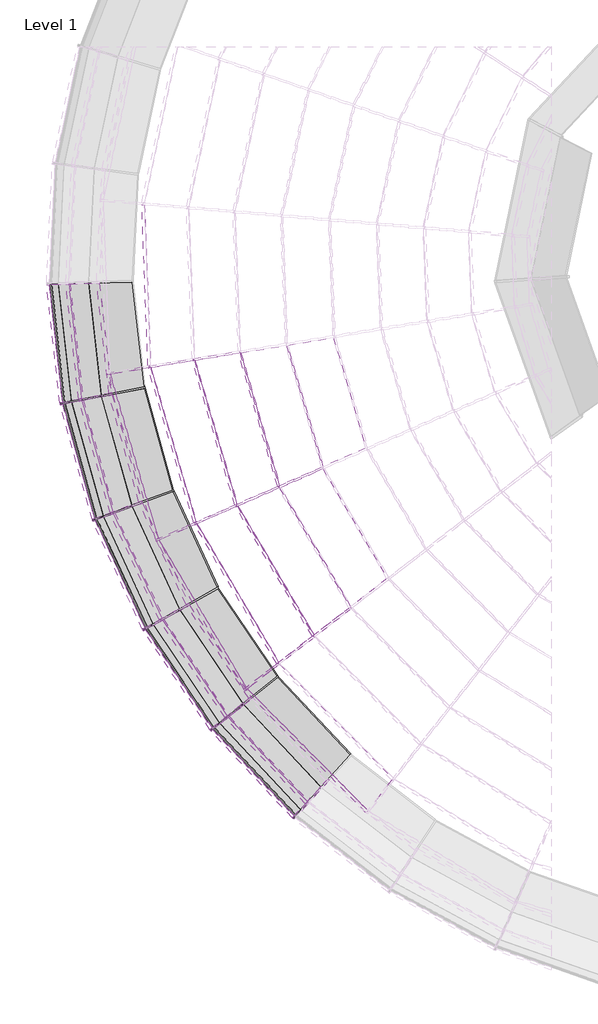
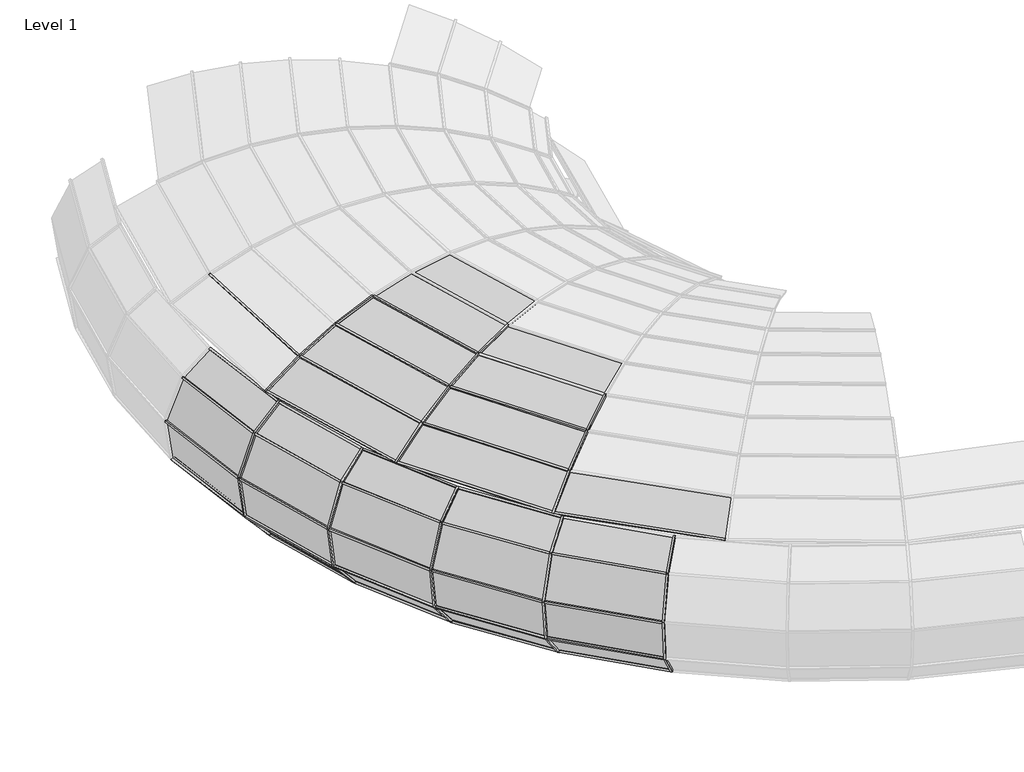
# One storey, part 1 of 23: 71 members, 35 plates.
"""IFC4 building model written with IfcOpenShell, lengths in millimetres."""

from ifc_helpers import new_model, si_unit, origin, place, context, project, spatial, transform, mapped, element, save
from components import member_6c4aaba8, member_0ea93e7c, member_12c77cbe, member_af15374c, member_9c203333, member_86c07ba8, member_0e8a41c0, member_f532ae18, member_ff5bcfe9, member_5080b2ef, member_d6b8231b, member_8c9da58c, member_391bee44, member_01ebdf2a, member_0cd36c09, member_e4cc2466, system_panel_glazed_dfe8d515, system_panel_glazed_f0cf6c0b, system_panel_glazed_2b57bb89, system_panel_glazed_39caee5c, system_panel_glazed_2fe36e08, system_panel_glazed_8ac96967, system_panel_glazed_5e26bc8e, system_panel_glazed_f7be4813, system_panel_glazed_5b1ce257, system_panel_glazed_7bf4cd1b

model = new_model("IFC4")

# Units and contexts
model_context = context("Model", 3, world=origin())
ifc_project = project(units=[si_unit("LENGTHUNIT", "METRE", prefix="MILLI")], contexts=[model_context])

# Site, building, storey
site = spatial("IfcSite", under=ifc_project)
building = spatial("IfcBuilding", under=site)
storey = spatial("IfcBuildingStorey", under=building, Name="Level 1", Elevation=0.0)

# Members
placement = place(None, origin())
member_shape = member_6c4aaba8(model_context)
element("IfcMember", 1, ObjectType="Rectangular Mullion : 1\" Square", at=placement, inside=storey, context=model_context, shape_type="MappedRepresentation", body=[
    mapped(member_shape, transform((-18158.8799169, -2681.3665666, 2378.3537392), x_axis=(0.904906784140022, 0.03462697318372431, 0.42419887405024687), y_axis=(-0.4238886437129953, -0.016220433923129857, 0.9055690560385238), z_axis=(0.03823780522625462, -0.9992686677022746, 0.0))),
])
element("IfcMember", 2, ObjectType="Rectangular Mullion : 1\" Square", at=placement, inside=storey, context=model_context, shape_type="MappedRepresentation", body=[
    mapped(member_shape, transform((-17580.3983963, -4661.1264421, 2378.3537392), x_axis=(0.8688379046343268, 0.25529592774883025, 0.42419887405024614), y_axis=(-0.4069927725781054, -0.11958916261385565, 0.9055690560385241), z_axis=(0.28191768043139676, -0.9594385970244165, 0.0))),
])
element("IfcMember", 3, ObjectType="Rectangular Mullion : 1\" Square", at=placement, inside=storey, context=model_context, shape_type="MappedRepresentation", body=[
    mapped(member_shape, transform((-16534.4607919, -6438.7947357, 2378.3537392), x_axis=(0.779799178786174, 0.4604004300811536, 0.42419887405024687), y_axis=(-0.365284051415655, -0.21566698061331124, 0.9055690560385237), z_axis=(0.5084100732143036, -0.8611150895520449, 0.0))),
])
member_2_shape = member_0ea93e7c(model_context)
element("IfcMember", 4, ObjectType="Rectangular Mullion : 1\" Square", at=placement, inside=storey, context=model_context, shape_type="MappedRepresentation", body=[
    mapped(member_2_shape, transform((-16521.3628544, -4201.3843389, 2763.3769688), x_axis=(0.9401635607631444, 0.27625397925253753, 0.19943976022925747), y_axis=(-0.19135020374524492, -0.05622559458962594, 0.9799100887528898), z_axis=(0.2819176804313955, -0.959438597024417, 0.0))),
])
member_3_shape = member_12c77cbe(model_context)
element("IfcMember", 5, ObjectType="Rectangular Mullion : 1\" Square", at=placement, inside=storey, context=model_context, shape_type="MappedRepresentation", body=[
    mapped(member_3_shape, transform((-17061.430699, -4435.8353247, 2605.3528615), x_axis=(0.9109237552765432, 0.26766226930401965, 0.31396627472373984), y_axis=(-0.30123136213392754, -0.08851264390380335, 0.9494341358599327), z_axis=(0.2819176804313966, -0.9594385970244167, 0.0))),
])
element("IfcMember", 6, ObjectType="Rectangular Mullion : 1\" Square", at=placement, inside=storey, context=model_context, shape_type="MappedRepresentation", body=[
    mapped(member_3_shape, transform((-16086.5147526, -6093.2113097, 2605.3528615), x_axis=(0.8175720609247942, 0.48270187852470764, 0.3139662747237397), y_axis=(-0.2703610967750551, -0.1596236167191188, 0.9494341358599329), z_axis=(0.5084100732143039, -0.8611150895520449, 0.0))),
])
member_4_shape = member_af15374c(model_context)
element("IfcMember", 7, ObjectType="Rectangular Mullion : 1\" Square", at=placement, inside=storey, context=model_context, shape_type="MappedRepresentation", body=[
    mapped(member_4_shape, transform((-18682.519146, -2792.4968531, 2085.6089632), x_axis=(-0.8400695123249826, -0.2468427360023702, -0.4830650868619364), y_axis=(-0.46347128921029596, -0.13618458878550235, 0.8755844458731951), z_axis=(-0.28191768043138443, 0.9594385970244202, 0.0))),
])
element("IfcMember", 8, ObjectType="Rectangular Mullion : 1\" Square", at=placement, inside=storey, context=model_context, shape_type="MappedRepresentation", body=[
    mapped(member_4_shape, transform((-18060.8457853, -4897.1736604, 2085.6089632), x_axis=(-0.7539789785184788, -0.4451559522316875, -0.4830650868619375), y_axis=(-0.4159746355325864, -0.24559515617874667, 0.8755844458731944), z_axis=(-0.5084100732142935, 0.8611150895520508, 0.0))),
])
element("IfcMember", 9, ObjectType="Rectangular Mullion : 1\" Square", at=placement, inside=storey, context=model_context, shape_type="MappedRepresentation", body=[
    mapped(member_4_shape, transform((-16942.4252334, -6785.3679564, 2085.6089632), x_axis=(-0.6219211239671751, -0.616329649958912, -0.4830650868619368), y_axis=(-0.34311754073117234, -0.3400326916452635, 0.8755844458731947), z_axis=(-0.7039065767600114, 0.7102925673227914, 0.0))),
])
member_5_shape = member_9c203333(model_context)
element("IfcMember", 10, ObjectType="Rectangular Mullion : 1\" Square", at=placement, inside=storey, context=model_context, shape_type="MappedRepresentation", body=[
    mapped(member_5_shape, transform((-18213.2179459, -2967.9449086, 0.0), x_axis=(0.9245056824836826, 0.2574027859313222, -0.28112817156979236), y_axis=(-0.2708269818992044, -0.07540420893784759, -0.9596702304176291), z_axis=(-0.26822003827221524, 0.9633576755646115, 0.0))),
])
element("IfcMember", 11, ObjectType="Rectangular Mullion : 1\" Square", at=placement, inside=storey, context=model_context, shape_type="MappedRepresentation", body=[
    mapped(member_5_shape, transform((-17848.2511854, -4271.2317122, 0.0), x_axis=(0.87160654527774, 0.4015830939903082, -0.2811281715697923), y_axis=(-0.2553305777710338, -0.11764074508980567, -0.9596702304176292), z_axis=(-0.41845946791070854, 0.9082354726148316, 0.0))),
])
element("IfcMember", 12, ObjectType="Rectangular Mullion : 1\" Square", at=placement, inside=storey, context=model_context, shape_type="MappedRepresentation", body=[
    mapped(member_5_shape, transform((-17280.0586356, -5499.6105036, 0.0), x_axis=(0.7963852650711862, 0.5354787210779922, -0.28112817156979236), y_axis=(-0.23329506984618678, -0.15686446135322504, -0.9596702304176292), z_axis=(-0.5579820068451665, 0.8298530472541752, 0.0))),
])
element("IfcMember", 13, ObjectType="Rectangular Mullion : 1\" Square", at=placement, inside=storey, context=model_context, shape_type="MappedRepresentation", body=[
    mapped(member_5_shape, transform((-16523.1919026, -6621.6220798, 0.0), x_axis=(0.7007682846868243, 0.6556605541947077, -0.281128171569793), y_axis=(-0.2052847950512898, -0.19207082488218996, -0.959670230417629), z_axis=(-0.6832144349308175, 0.73021780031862, 0.0))),
])
member_6_shape = member_86c07ba8(model_context)
element("IfcMember", 14, ObjectType="Rectangular Mullion : 1\" Square", at=placement, inside=storey, context=model_context, shape_type="MappedRepresentation", body=[
    mapped(member_6_shape, transform((-18792.507961, -3054.4312866, 170.8694653), x_axis=(-0.838814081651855, -0.09378251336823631, 0.5362795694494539), y_axis=(-0.5329589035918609, -0.05958677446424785, -0.8440404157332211), z_axis=(0.11111140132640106, -0.9938079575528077, 0.0))),
])
element("IfcMember", 15, ObjectType="Rectangular Mullion : 1\" Square", at=placement, inside=storey, context=model_context, shape_type="MappedRepresentation", body=[
    mapped(member_6_shape, transform((-18406.3270557, -4449.0184896, 170.8694653), x_axis=(-0.8131128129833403, -0.22638855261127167, 0.536279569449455), y_axis=(-0.5166290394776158, -0.1438409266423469, -0.8440404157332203), z_axis=(0.2682200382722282, -0.9633576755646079, 0.0))),
])
element("IfcMember", 16, ObjectType="Rectangular Mullion : 1\" Square", at=placement, inside=storey, context=model_context, shape_type="MappedRepresentation", body=[
    mapped(member_6_shape, transform((-17802.6278462, -5764.1444999, 170.8694653), x_axis=(-0.7665874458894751, -0.35319670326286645, 0.5362795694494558), y_axis=(-0.48706812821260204, -0.22441126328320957, -0.8440404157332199), z_axis=(0.4184594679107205, -0.9082354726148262, 0.0))),
])
element("IfcMember", 17, ObjectType="Rectangular Mullion : 1\" Square", at=placement, inside=storey, context=model_context, shape_type="MappedRepresentation", body=[
    mapped(member_6_shape, transform((-16996.8712767, -6966.1284886, 170.8694653), x_axis=(-0.7004295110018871, -0.4709593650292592, 0.5362795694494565), y_axis=(-0.44503323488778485, -0.2992343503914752, -0.8440404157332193), z_axis=(0.557982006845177, -0.8298530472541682, 0.0))),
])
element("IfcMember", 18, ObjectType="Rectangular Mullion : 1\" Square", at=placement, inside=storey, context=model_context, shape_type="MappedRepresentation", body=[
    mapped(member_6_shape, transform((-16009.6930497, -8024.1872329, 170.8694653), x_axis=(-0.6163333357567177, -0.5766605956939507, 0.5362795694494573), y_axis=(-0.39160088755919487, -0.3663939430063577, -0.8440404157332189), z_axis=(0.6832144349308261, -0.7302178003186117, 0.0))),
])
member_7_shape = member_0e8a41c0(model_context)
element("IfcMember", 19, ObjectType="Rectangular Mullion : 1\" Square", at=placement, inside=storey, context=model_context, shape_type="MappedRepresentation", body=[
    mapped(member_7_shape, transform((-19186.4426262, -3130.7824146, 629.7792003), x_axis=(-0.4196634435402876, -0.04691992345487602, 0.9064662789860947), y_axis=(-0.9008534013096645, -0.10071873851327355, -0.42227820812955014), z_axis=(0.11111140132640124, -0.9938079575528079, 0.0))),
])
element("IfcMember", 20, ObjectType="Rectangular Mullion : 1\" Square", at=placement, inside=storey, context=model_context, shape_type="MappedRepresentation", body=[
    mapped(member_7_shape, transform((-18783.0378499, -4587.2320658, 629.7792003), x_axis=(-0.40680495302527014, -0.11326347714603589, 0.906466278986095), y_axis=(-0.8732512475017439, -0.24313242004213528, -0.42227820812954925), z_axis=(0.2682200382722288, -0.9633576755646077, 0.0))),
])
element("IfcMember", 21, ObjectType="Rectangular Mullion : 1\" Square", at=placement, inside=storey, context=model_context, shape_type="MappedRepresentation", body=[
    mapped(member_7_shape, transform((-18152.4670768, -5960.6808271, 629.7792003), x_axis=(-0.383528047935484, -0.17670631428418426, 0.9064662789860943), y_axis=(-0.8232848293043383, -0.37931939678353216, -0.4222782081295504), z_axis=(0.4184594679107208, -0.908235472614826, 0.0))),
])
element("IfcMember", 22, ObjectType="Rectangular Mullion : 1\" Square", at=placement, inside=storey, context=model_context, shape_type="MappedRepresentation", body=[
    mapped(member_7_shape, transform((-17310.8794407, -7215.9542041, 629.7792003), x_axis=(-0.35042885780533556, -0.23562364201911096, 0.9064662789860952), y_axis=(-0.7522338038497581, -0.505791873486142, -0.4222782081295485), z_axis=(0.5579820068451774, -0.829853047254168, 0.0))),
])
element("IfcMember", 23, ObjectType="Rectangular Mullion : 1\" Square", at=placement, inside=storey, context=model_context, shape_type="MappedRepresentation", body=[
    mapped(member_7_shape, transform((-16279.8282901, -8320.9042143, 629.7792003), x_axis=(-0.3083550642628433, -0.28850656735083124, 0.9064662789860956), y_axis=(-0.6619178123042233, -0.6193108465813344, -0.4222782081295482), z_axis=(0.6832144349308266, -0.7302178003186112, 0.0))),
])
member_8_shape = member_f532ae18(model_context)
element("IfcMember", 24, ObjectType="Rectangular Mullion : 1\" Square", at=placement, inside=storey, context=model_context, shape_type="MappedRepresentation", body=[
    mapped(member_8_shape, transform((-19276.0387238, -3148.1476371, 1232.5089476), x_axis=(0.13313096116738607, 0.014884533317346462, 0.9909866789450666), y_axis=(-0.984850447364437, -0.11010991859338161, 0.133960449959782), z_axis=(0.1111114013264, -0.993807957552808, 0.0))),
])
element("IfcMember", 25, ObjectType="Rectangular Mullion : 1\" Square", at=placement, inside=storey, context=model_context, shape_type="MappedRepresentation", body=[
    mapped(member_8_shape, transform((-18868.716568, -4618.6672203, 1232.5089476), x_axis=(0.12905182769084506, 0.03593087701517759, 0.9909866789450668), y_axis=(-0.9546746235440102, -0.26580248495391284, 0.13396044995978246), z_axis=(0.26822003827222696, -0.9633576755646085, 0.0))),
])
element("IfcMember", 26, ObjectType="Rectangular Mullion : 1\" Square", at=placement, inside=storey, context=model_context, shape_type="MappedRepresentation", body=[
    mapped(member_8_shape, transform((-18232.0341538, -6005.3808486, 1232.5089476), x_axis=(0.12166763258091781, 0.05605701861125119, 0.9909866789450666), y_axis=(-0.90004925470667, -0.41468775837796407, 0.13396044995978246), z_axis=(0.41845946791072, -0.9082354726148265, 0.0))),
])
element("IfcMember", 27, ObjectType="Rectangular Mullion : 1\" Square", at=placement, inside=storey, context=model_context, shape_type="MappedRepresentation", body=[
    mapped(member_8_shape, transform((-17382.2971366, -7272.7743095, 1232.5089476), x_axis=(0.1111674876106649, 0.07474752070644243, 0.9909866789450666), y_axis=(-0.8223733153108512, -0.5529527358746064, 0.13396044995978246), z_axis=(0.5579820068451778, -0.8298530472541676, 0.0))),
])
element("IfcMember", 28, ObjectType="Rectangular Mullion : 1\" Square", at=placement, inside=storey, context=model_context, shape_type="MappedRepresentation", body=[
    mapped(member_8_shape, transform((-16341.2675732, -8388.3892213, 1232.5089476), x_axis=(0.09782030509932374, 0.09152371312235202, 0.9909866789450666), y_axis=(-0.7236361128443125, -0.6770564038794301, 0.13396044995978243), z_axis=(0.6832144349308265, -0.7302178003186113, 0.0))),
])
member_9_shape = member_ff5bcfe9(model_context)
element("IfcMember", 29, ObjectType="Rectangular Mullion : 1\" Square", at=placement, inside=storey, context=model_context, shape_type="MappedRepresentation", body=[
    mapped(member_9_shape, transform((-19033.1391432, -3101.0696351, 1789.6405438), x_axis=(0.6433903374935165, 0.07193341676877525, 0.7621512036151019), y_axis=(-0.7574319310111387, -0.08468368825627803, 0.647399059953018), z_axis=(0.11111140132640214, -0.9938079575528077, 0.0))),
])
element("IfcMember", 30, ObjectType="Rectangular Mullion : 1\" Square", at=placement, inside=storey, context=model_context, shape_type="MappedRepresentation", body=[
    mapped(member_9_shape, transform((-18636.4372028, -4533.4449166, 1789.6405438), x_axis=(0.6236768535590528, 0.17364540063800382, 0.7621512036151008), y_axis=(-0.7342242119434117, -0.20442422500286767, 0.6473990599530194), z_axis=(0.26822003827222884, -0.9633576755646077, 0.0))),
])
element("IfcMember", 31, ObjectType="Rectangular Mullion : 1\" Square", at=placement, inside=storey, context=model_context, shape_type="MappedRepresentation", body=[
    mapped(member_9_shape, transform((-18016.3237584, -5884.1968155, 1789.6405438), x_axis=(0.5879907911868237, 0.27091026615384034, 0.762151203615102), y_axis=(-0.6922127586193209, -0.31892938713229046, 0.647399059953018), z_axis=(0.41845946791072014, -0.9082354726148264, 0.0))),
])
element("IfcMember", 32, ObjectType="Rectangular Mullion : 1\" Square", at=placement, inside=storey, context=model_context, shape_type="MappedRepresentation", body=[
    mapped(member_9_shape, transform((-17188.6801283, -7118.7321119, 1789.6405438), x_axis=(0.537246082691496, 0.36123702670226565, 0.7621512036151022), y_axis=(-0.6324734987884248, -0.4252666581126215, 0.6473990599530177), z_axis=(0.5579820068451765, -0.8298530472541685, 0.0))),
])
element("IfcMember", 33, ObjectType="Rectangular Mullion : 1\" Square", at=placement, inside=storey, context=model_context, shape_type="MappedRepresentation", body=[
    mapped(member_9_shape, transform((-16174.70255, -8205.4339327, 1789.6405438), x_axis=(0.4727423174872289, 0.4423123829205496, 0.7621512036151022), y_axis=(-0.5565363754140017, -0.520712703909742, 0.6473990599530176), z_axis=(0.6832144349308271, -0.7302178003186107, 0.0))),
])
member_10_shape = member_5080b2ef(model_context)
element("IfcMember", 34, ObjectType="Rectangular Mullion : 1\" Square", at=placement, inside=storey, context=model_context, shape_type="MappedRepresentation", body=[
    mapped(member_10_shape, transform((-18641.5264259, -3025.1685395, 2085.6089632), x_axis=(0.7972041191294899, 0.08913036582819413, 0.5970941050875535), y_axis=(-0.5933968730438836, -0.06634396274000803, 0.8021711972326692), z_axis=(0.11111140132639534, -0.9938079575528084, 0.0))),
])
element("IfcMember", 35, ObjectType="Rectangular Mullion : 1\" Square", at=placement, inside=storey, context=model_context, shape_type="MappedRepresentation", body=[
    mapped(member_10_shape, transform((-18261.9468347, -4396.0460052, 2085.6089632), x_axis=(0.7727777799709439, 0.21515838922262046, 0.5970941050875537), y_axis=(-0.5752151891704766, -0.16015260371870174, 0.8021711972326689), z_axis=(0.26822003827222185, -0.9633576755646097, 0.0))),
])
element("IfcMember", 36, ObjectType="Rectangular Mullion : 1\" Square", at=placement, inside=storey, context=model_context, shape_type="MappedRepresentation", body=[
    mapped(member_10_shape, transform((-17668.5465664, -5688.8189217, 2085.6089632), x_axis=(0.7285603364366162, 0.3356761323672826, 0.5970941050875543), y_axis=(-0.5423020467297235, -0.24985968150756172, 0.8021711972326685), z_axis=(0.41845946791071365, -0.9082354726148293, 0.0))),
])
element("IfcMember", 37, ObjectType="Rectangular Mullion : 1\" Square", at=placement, inside=storey, context=model_context, shape_type="MappedRepresentation", body=[
    mapped(member_10_shape, transform((-16876.5228057, -6870.3789306, 2085.6089632), x_axis=(0.6656842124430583, 0.4475970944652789, 0.5970941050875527), y_axis=(-0.4955003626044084, -0.3331677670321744, 0.8021711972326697), z_axis=(0.5579820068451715, -0.829853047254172, 0.0))),
])
member_11_shape = member_d6b8231b(model_context)
element("IfcMember", 38, ObjectType="Rectangular Mullion : 1\" Square", at=placement, inside=storey, context=model_context, shape_type="MappedRepresentation", body=[
    mapped(member_11_shape, transform((-16531.8687259, -6612.3483138, 0.0), x_axis=(0.6225945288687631, -0.7825446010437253, 0.0), y_axis=(-0.21934543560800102, -0.17451180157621, -0.9599131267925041), z_axis=(0.7511748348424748, 0.5976366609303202, -0.28029767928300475))),
])
element("IfcMember", 39, ObjectType="Rectangular Mullion : 1\" Square", at=placement, inside=storey, context=model_context, shape_type="MappedRepresentation", body=[
    mapped(member_11_shape, transform((-17287.145007, -5489.0713699, 0.0), x_axis=(0.4897912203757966, -0.8718397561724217, 0.0), y_axis=(-0.24437466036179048, -0.1372873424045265, -0.959913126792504), z_axis=(0.8368904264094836, 0.4701570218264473, -0.2802976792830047))),
])
element("IfcMember", 40, ObjectType="Rectangular Mullion : 1\" Square", at=placement, inside=storey, context=model_context, shape_type="MappedRepresentation", body=[
    mapped(member_11_shape, transform((-17853.5656207, -4259.6971217, 0.0), x_axis=(0.34444419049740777, -0.9388067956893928, 0.0), y_axis=(-0.2631453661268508, -0.0965469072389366, -0.959913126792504), z_axis=(0.9011729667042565, 0.33063649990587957, -0.28029767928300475))),
])
element("IfcMember", 41, ObjectType="Rectangular Mullion : 1\" Square", at=placement, inside=storey, context=model_context, shape_type="MappedRepresentation", body=[
    mapped(member_11_shape, transform((-18216.6243404, -2955.7102662, 0.0), x_axis=(0.19027582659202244, -0.9817306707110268, 0.0), y_axis=(-0.2751768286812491, -0.05333387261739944, -0.9599131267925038), z_axis=(0.9423761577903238, 0.18264826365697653, -0.2802976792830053))),
])
member_12_shape = member_8c9da58c(model_context)
element("IfcMember", 42, ObjectType="Rectangular Mullion : 1\" Square", at=placement, inside=storey, context=model_context, shape_type="MappedRepresentation", body=[
    mapped(member_12_shape, transform((-18791.0968462, -3067.0526477, 170.8694653), x_axis=(0.19027582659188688, -0.9817306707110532, 0.0), y_axis=(-0.7390514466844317, -0.14324053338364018, -0.658243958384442), z_axis=(0.6462182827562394, 0.12524791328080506, -0.752804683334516))),
])
element("IfcMember", 43, ObjectType="Rectangular Mullion : 1\" Square", at=placement, inside=storey, context=model_context, shape_type="MappedRepresentation", body=[
    mapped(member_12_shape, transform((-18402.9206612, -4461.2531321, 170.8694653), x_axis=(0.34444419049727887, -0.9388067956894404, 0.0), y_axis=(-0.706738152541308, -0.2592991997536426, -0.6582439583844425), z_axis=(0.6179639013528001, 0.22672830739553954, -0.7528046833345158))),
])
element("IfcMember", 44, ObjectType="Rectangular Mullion : 1\" Square", at=placement, inside=storey, context=model_context, shape_type="MappedRepresentation", body=[
    mapped(member_12_shape, transform((-17797.313411, -5775.6790904, 170.8694653), x_axis=(0.48979122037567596, -0.8718397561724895, 0.0), y_axis=(-0.656325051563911, -0.3687171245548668, -0.6582439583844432), z_axis=(0.5738832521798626, 0.3224021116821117, -0.7528046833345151))),
])
element("IfcMember", 45, ObjectType="Rectangular Mullion : 1\" Square", at=placement, inside=storey, context=model_context, shape_type="MappedRepresentation", body=[
    mapped(member_12_shape, transform((-16989.7849053, -6976.6676223, 170.8694653), x_axis=(0.6225945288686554, -0.7825446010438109, 0.0), y_axis=(-0.5891032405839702, -0.46869207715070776, -0.6582439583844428), z_axis=(0.515105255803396, 0.40981908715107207, -0.7528046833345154))),
])
element("IfcMember", 46, ObjectType="Rectangular Mullion : 1\" Square", at=placement, inside=storey, context=model_context, shape_type="MappedRepresentation", body=[
    mapped(member_12_shape, transform((-16001.0162264, -8033.460999, 170.8694653), x_axis=(0.7394529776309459, -0.6732082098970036, 0.0), y_axis=(-0.5067942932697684, -0.556663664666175, -0.658243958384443), z_axis=(0.44313523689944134, 0.486740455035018, -0.7528046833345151))),
])
element("IfcMember", 47, ObjectType="Rectangular Mullion : 1\" Square", at=placement, inside=storey, context=model_context, shape_type="MappedRepresentation", body=[
    mapped(member_12_shape, transform((-19185.0315114, -3143.4037756, 629.7792003), x_axis=(0.19027582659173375, -0.9817306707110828, 0.0), y_axis=(-0.9706664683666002, -0.18813139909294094, -0.1497103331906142), z_axis=(0.1469752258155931, 0.028486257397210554, -0.9887299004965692))),
])
element("IfcMember", 48, ObjectType="Rectangular Mullion : 1\" Square", at=placement, inside=storey, context=model_context, shape_type="MappedRepresentation", body=[
    mapped(member_12_shape, transform((-18779.6314555, -4599.4667083, 629.7792003), x_axis=(0.3444441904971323, -0.9388067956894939, 0.0), y_axis=(-0.9282263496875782, -0.34056227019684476, -0.1497103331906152), z_axis=(0.14054907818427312, 0.05156685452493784, -0.988729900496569))),
])
element("IfcMember", 49, ObjectType="Rectangular Mullion : 1\" Square", at=placement, inside=storey, context=model_context, shape_type="MappedRepresentation", body=[
    mapped(member_12_shape, transform((-18147.1526415, -5972.2154176, 629.7792003), x_axis=(0.4897912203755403, -0.8718397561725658, 0.0), y_axis=(-0.8620140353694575, -0.4842712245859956, -0.1497103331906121), z_axis=(0.13052342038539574, 0.07332680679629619, -0.9887299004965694))),
])
element("IfcMember", 50, ObjectType="Rectangular Mullion : 1\" Square", at=placement, inside=storey, context=model_context, shape_type="MappedRepresentation", body=[
    mapped(member_12_shape, transform((-17303.7930692, -7226.4933378, 629.7792003), x_axis=(0.6225945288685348, -0.7825446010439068, 0.0), y_axis=(-0.7737252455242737, -0.6155778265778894, -0.14971033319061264), z_axis=(0.11715501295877, 0.09320883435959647, -0.9887299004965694))),
])
element("IfcMember", 51, ObjectType="Rectangular Mullion : 1\" Square", at=placement, inside=storey, context=model_context, shape_type="MappedRepresentation", body=[
    mapped(member_12_shape, transform((-16271.1514668, -8330.1779803, 629.7792003), x_axis=(0.7394529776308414, -0.6732082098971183, 0.0), y_axis=(-0.665621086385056, -0.7311192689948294, -0.14971033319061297), z_axis=(0.10078622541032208, 0.11070375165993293, -0.9887299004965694))),
])
member_13_shape = member_391bee44(model_context)
element("IfcMember", 52, ObjectType="Rectangular Mullion : 1\" Square", at=placement, inside=storey, context=model_context, shape_type="MappedRepresentation", body=[
    mapped(member_13_shape, transform((-19274.627609, -3160.7689981, 1232.5089476), x_axis=(0.19027582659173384, -0.9817306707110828, 0.0), y_axis=(-0.8972328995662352, -0.17389874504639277, 0.40587233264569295), z_axis=(-0.39845731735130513, -0.07722769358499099, -0.913929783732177))),
])
element("IfcMember", 53, ObjectType="Rectangular Mullion : 1\" Square", at=placement, inside=storey, context=model_context, shape_type="MappedRepresentation", body=[
    mapped(member_13_shape, transform((-18865.3101735, -4630.9018628, 1232.5089476), x_axis=(0.3444441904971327, -0.9388067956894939, 0.0), y_axis=(-0.8580034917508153, -0.3147978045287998, 0.4058723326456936), z_axis=(-0.3810357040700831, -0.1398003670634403, -0.9139297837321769))),
])
element("IfcMember", 54, ObjectType="Rectangular Mullion : 1\" Square", at=placement, inside=storey, context=model_context, shape_type="MappedRepresentation", body=[
    mapped(member_13_shape, transform((-18226.7197186, -6016.9154391, 1232.5089476), x_axis=(0.4897912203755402, -0.871839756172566, 0.0), y_axis=(-0.7968003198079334, -0.4476347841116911, 0.4058723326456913), z_axis=(-0.35385563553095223, -0.19879270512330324, -0.9139297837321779))),
])
element("IfcMember", 55, ObjectType="Rectangular Mullion : 1\" Square", at=placement, inside=storey, context=model_context, shape_type="MappedRepresentation", body=[
    mapped(member_13_shape, transform((-17375.2107651, -7283.3134432, 1232.5089476), x_axis=(0.6225945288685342, -0.7825446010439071, 0.0), y_axis=(-0.7151908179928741, -0.569007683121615, 0.4058723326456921), z_axis=(-0.3176132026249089, -0.25269389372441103, -0.9139297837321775))),
])
element("IfcMember", 56, ObjectType="Rectangular Mullion : 1\" Square", at=placement, inside=storey, context=model_context, shape_type="MappedRepresentation", body=[
    mapped(member_13_shape, transform((-16332.5907498, -8397.6629874, 1232.5089476), x_axis=(0.7394529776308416, -0.6732082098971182, 0.0), y_axis=(-0.6152650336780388, -0.6758080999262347, 0.405872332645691), z_axis=(-0.2732365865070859, -0.3001235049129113, -0.9139297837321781))),
])
member_14_shape = member_01ebdf2a(model_context)
element("IfcMember", 57, ObjectType="Rectangular Mullion : 1\" Square", at=placement, inside=storey, context=model_context, shape_type="MappedRepresentation", body=[
    mapped(member_14_shape, transform((-19031.7280284, -3113.6909961, 1789.6405438), x_axis=(0.190275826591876, -0.9817306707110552, 0.0), y_axis=(-0.5849740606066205, -0.11337775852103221, 0.8030883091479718), z_axis=(-0.7884164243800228, -0.1528082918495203, -0.5958600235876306))),
])
element("IfcMember", 58, ObjectType="Rectangular Mullion : 1\" Square", at=placement, inside=storey, context=model_context, shape_type="MappedRepresentation", body=[
    mapped(member_14_shape, transform((-18633.0308083, -4545.679559, 1789.6405438), x_axis=(0.3444441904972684, -0.9388067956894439, 0.0), y_axis=(-0.5593974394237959, -0.2052405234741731, 0.8030883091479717), z_axis=(-0.7539447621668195, -0.2766191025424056, -0.5958600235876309))),
])
element("IfcMember", 59, ObjectType="Rectangular Mullion : 1\" Square", at=placement, inside=storey, context=model_context, shape_type="MappedRepresentation", body=[
    mapped(member_14_shape, transform((-18011.0093232, -5895.731406, 1789.6405438), x_axis=(0.4897912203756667, -0.8718397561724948, 0.0), y_axis=(-0.519494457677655, -0.29184700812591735, 0.8030883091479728), z_axis=(-0.7001643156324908, -0.39334560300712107, -0.5958600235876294))),
])
element("IfcMember", 60, ObjectType="Rectangular Mullion : 1\" Square", at=placement, inside=storey, context=model_context, shape_type="MappedRepresentation", body=[
    mapped(member_14_shape, transform((-17181.5937568, -7129.2712456, 1789.6405438), x_axis=(0.6225945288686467, -0.7825446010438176, 0.0), y_axis=(-0.4662870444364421, -0.37097919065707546, 0.803088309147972), z_axis=(-0.6284524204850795, -0.4999983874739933, -0.5958600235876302))),
])
element("IfcMember", 61, ObjectType="Rectangular Mullion : 1\" Square", at=placement, inside=storey, context=model_context, shape_type="MappedRepresentation", body=[
    mapped(member_14_shape, transform((-16166.0257267, -8214.7076988, 1789.6405438), x_axis=(0.7394529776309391, -0.6732082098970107, 0.0), y_axis=(-0.40113785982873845, -0.4406104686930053, 0.8030883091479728), z_axis=(-0.5406456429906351, -0.5938460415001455, -0.5958600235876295))),
])
member_15_shape = member_0cd36c09(model_context)
element("IfcMember", 62, ObjectType="Rectangular Mullion : 1\" Square", at=placement, inside=storey, context=model_context, shape_type="MappedRepresentation", body=[
    mapped(member_15_shape, transform((-18158.3942968, -2694.0572787, 2378.3537392), x_axis=(0.1613117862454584, -0.9869034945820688, 0.0), y_axis=(-0.36749709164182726, -0.06006829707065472, 0.928082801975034), z_axis=(-0.9159281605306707, -0.1497106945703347, -0.37237388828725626))),
])
element("IfcMember", 63, ObjectType="Rectangular Mullion : 1\" Square", at=placement, inside=storey, context=model_context, shape_type="MappedRepresentation", body=[
    mapped(member_15_shape, transform((-17600.0444901, -2602.7936393, 2605.3528615), x_axis=(0.16131178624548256, -0.9869034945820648, 0.0), y_axis=(-0.25583094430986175, -0.04181619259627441, 0.9658167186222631), z_axis=(-0.9531678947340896, -0.15579762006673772, -0.2592258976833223))),
])
element("IfcMember", 64, ObjectType="Rectangular Mullion : 1\" Square", at=placement, inside=storey, context=model_context, shape_type="MappedRepresentation", body=[
    mapped(member_15_shape, transform((-17576.8180418, -4673.3113123, 2378.3537392), x_axis=(0.3982102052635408, -0.9172941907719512, 0.0), y_axis=(-0.34157640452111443, -0.1482830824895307, 0.9280828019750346), z_axis=(-0.8513249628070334, -0.36957204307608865, -0.3723738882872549))),
])
element("IfcMember", 65, ObjectType="Rectangular Mullion : 1\" Square", at=placement, inside=storey, context=model_context, shape_type="MappedRepresentation", body=[
    mapped(member_15_shape, transform((-17057.8503445, -4448.0201948, 2605.3528615), x_axis=(0.3982102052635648, -0.9172941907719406, 0.0), y_axis=(-0.23778641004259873, -0.10322639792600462, 0.9658167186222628), z_axis=(-0.8859380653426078, -0.3845980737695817, -0.2592258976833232))),
])
element("IfcMember", 66, ObjectType="Rectangular Mullion : 1\" Square", at=placement, inside=storey, context=model_context, shape_type="MappedRepresentation", body=[
    mapped(member_15_shape, transform((-16517.7824998, -4213.5692091, 2763.3769688), x_axis=(0.39821020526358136, -0.9172941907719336, 0.0), y_axis=(-0.13061359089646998, -0.056701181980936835, 0.9898106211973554), z_axis=(-0.9079475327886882, -0.39415269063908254, -0.14239007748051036))),
])
element("IfcMember", 67, ObjectType="Rectangular Mullion : 1\" Square", at=placement, inside=storey, context=model_context, shape_type="MappedRepresentation", body=[
    mapped(member_15_shape, transform((-16528.003984, -6449.7308973, 2378.3537392), x_axis=(0.610831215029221, -0.7917608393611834, 0.0), y_axis=(-0.2948310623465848, -0.22745759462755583, 0.9280828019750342), z_axis=(-0.7348196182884, -0.5669019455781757, -0.3723738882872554))),
])
element("IfcMember", 68, ObjectType="Rectangular Mullion : 1\" Square", at=placement, inside=storey, context=model_context, shape_type="MappedRepresentation", body=[
    mapped(member_15_shape, transform((-16080.0579447, -6104.1474713, 2605.3528615), x_axis=(0.6108312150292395, -0.791760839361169, 0.0), y_axis=(-0.20524491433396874, -0.15834327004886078, 0.965816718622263), z_axis=(-0.7646958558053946, -0.5899509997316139, -0.25922589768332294))),
])
member_16_shape = member_e4cc2466(model_context)
element("IfcMember", 69, ObjectType="Rectangular Mullion : 1\" Square", at=placement, inside=storey, context=model_context, shape_type="MappedRepresentation", body=[
    mapped(member_16_shape, transform((-16951.3648469, -6776.3472408, 2085.6089632), x_axis=(0.6108312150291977, -0.7917608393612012, 0.0), y_axis=(-0.3802228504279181, -0.2933360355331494, 0.8771456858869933), z_axis=(-0.6944896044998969, -0.5357879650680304, -0.48022437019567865))),
])
element("IfcMember", 70, ObjectType="Rectangular Mullion : 1\" Square", at=placement, inside=storey, context=model_context, shape_type="MappedRepresentation", body=[
    mapped(member_16_shape, transform((-18067.3025932, -4886.2374988, 2085.6089632), x_axis=(0.39821020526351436, -0.9172941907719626, 0.0), y_axis=(-0.44050702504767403, -0.19123024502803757, 0.8771456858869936), z_axis=(-0.8046006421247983, -0.3492883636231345, -0.48022437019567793))),
])
element("IfcMember", 71, ObjectType="Rectangular Mullion : 1\" Square", at=placement, inside=storey, context=model_context, shape_type="MappedRepresentation", body=[
    mapped(member_16_shape, transform((-18686.0995005, -2780.3119829, 2085.6089632), x_axis=(0.1613117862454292, -0.9869034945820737, 0.0), y_axis=(-0.4739351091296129, -0.07746585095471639, 0.8771456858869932), z_axis=(-0.8656581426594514, -0.14149393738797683, -0.48022437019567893))),
])

# Plates
system_panel_glazed_shape = system_panel_glazed_dfe8d515(model_context)
element("IfcPlate", 72, ObjectType="System Panel : Glazed", at=placement, inside=storey, context=model_context, shape_type="MappedRepresentation", body=[
    mapped(system_panel_glazed_shape, transform((-18316.048413, -2285.81672, 7.1406556), x_axis=(0.11111140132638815, -0.9938079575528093, 0.0), y_axis=(0.2793874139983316, 0.031236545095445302, 0.959670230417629), z_axis=(-0.9537279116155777, -0.10663030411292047, 0.281128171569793))),
])
element("IfcPlate", 73, ObjectType="System Panel : Glazed", at=placement, inside=storey, context=model_context, shape_type="MappedRepresentation", body=[
    mapped(system_panel_glazed_shape, transform((-18058.5774249, -3614.2417247, 7.1406556), x_axis=(0.2682200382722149, -0.9633576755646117, 0.0), y_axis=(0.27082698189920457, 0.07540420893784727, 0.9596702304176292), z_axis=(-0.9245056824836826, -0.2574027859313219, 0.28112817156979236))),
])
element("IfcPlate", 74, ObjectType="System Panel : Glazed", at=placement, inside=storey, context=model_context, shape_type="MappedRepresentation", body=[
    mapped(system_panel_glazed_shape, transform((-17592.4941201, -4884.5844564, 7.1406556), x_axis=(0.41845946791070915, -0.9082354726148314, 0.0), y_axis=(0.25533057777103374, 0.11764074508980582, 0.9596702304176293), z_axis=(-0.8716065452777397, -0.40158309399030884, 0.2811281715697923))),
])
element("IfcPlate", 75, ObjectType="System Panel : Glazed", at=placement, inside=storey, context=model_context, shape_type="MappedRepresentation", body=[
    mapped(system_panel_glazed_shape, transform((-16929.7350522, -6064.3110013, 7.1406556), x_axis=(0.5579820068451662, -0.8298530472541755, 0.0), y_axis=(0.23329506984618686, 0.15686446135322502, 0.9596702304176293), z_axis=(-0.7963852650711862, -0.5354787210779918, 0.28112817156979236))),
])
element("IfcPlate", 76, ObjectType="System Panel : Glazed", at=placement, inside=storey, context=model_context, shape_type="MappedRepresentation", body=[
    mapped(system_panel_glazed_shape, transform((-16087.2737086, -7123.2081575, 7.1406556), x_axis=(0.683214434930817, -0.7302178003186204, 0.0), y_axis=(0.20528479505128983, 0.19207082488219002, 0.9596702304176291), z_axis=(-0.7007682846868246, -0.6556605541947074, 0.281128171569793))),
])
system_panel_glazed_2_shape = system_panel_glazed_f0cf6c0b(model_context)
element("IfcPlate", 77, ObjectType="System Panel : Glazed", at=placement, inside=storey, context=model_context, shape_type="MappedRepresentation", body=[
    mapped(system_panel_glazed_2_shape, transform((-18879.7915499, -2348.8452855, 180.4433737), x_axis=(0.111111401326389, -0.9938079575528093, 0.0), y_axis=(0.7491831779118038, 0.08376144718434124, 0.657045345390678), z_axis=(-0.6529768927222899, -0.07300522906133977, 0.7538510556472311))),
])
element("IfcPlate", 78, ObjectType="System Panel : Glazed", at=placement, inside=storey, context=model_context, shape_type="MappedRepresentation", body=[
    mapped(system_panel_glazed_2_shape, transform((-18605.0474686, -3766.3910455, 180.4433737), x_axis=(0.268220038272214, -0.963357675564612, 0.0), y_axis=(0.7262282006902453, 0.20219795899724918, 0.6570453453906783), z_axis=(-0.6329696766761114, -0.1762327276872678, 0.7538510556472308))),
])
element("IfcPlate", 79, ObjectType="System Panel : Glazed", at=placement, inside=storey, context=model_context, shape_type="MappedRepresentation", body=[
    mapped(system_panel_glazed_2_shape, transform((-18107.6957851, -5121.9579362, 180.4433737), x_axis=(0.418459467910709, -0.9082354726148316, 0.0), y_axis=(0.684674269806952, 0.31545611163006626, 0.6570453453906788), z_axis=(-0.5967518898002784, -0.27494684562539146, 0.7538510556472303))),
])
element("IfcPlate", 80, ObjectType="System Panel : Glazed", at=placement, inside=storey, context=model_context, shape_type="MappedRepresentation", body=[
    mapped(system_panel_glazed_2_shape, transform((-17400.4738469, -6380.8294237, 180.4433737), x_axis=(0.5579820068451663, -0.8298530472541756, 0.0), y_axis=(0.6255855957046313, 0.42063532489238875, 0.6570453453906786), z_axis=(-0.5452510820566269, -0.36661948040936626, 0.7538510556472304))),
])
element("IfcPlate", 81, ObjectType="System Panel : Glazed", at=placement, inside=storey, context=model_context, shape_type="MappedRepresentation", body=[
    mapped(system_panel_glazed_2_shape, transform((-16501.4938507, -7510.765377, 180.4433737), x_axis=(0.6832144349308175, -0.7302178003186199, 0.0), y_axis=(0.55047545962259, 0.5150419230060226, 0.657045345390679), z_axis=(-0.4797862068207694, -0.44890286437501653, 0.7538510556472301))),
])
system_panel_glazed_3_shape = system_panel_glazed_2b57bb89(model_context)
element("IfcPlate", 82, ObjectType="System Panel : Glazed", at=placement, inside=storey, context=model_context, shape_type="MappedRepresentation", body=[
    mapped(system_panel_glazed_3_shape, transform((-19270.8845676, -2392.5709298, 642.3369711), x_axis=(0.11111140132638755, -0.9938079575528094, 0.0), y_axis=(0.9826781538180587, 0.10986704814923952, 0.14924100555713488), z_axis=(-0.14831689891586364, -0.016582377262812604, 0.9888008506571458))),
])
element("IfcPlate", 83, ObjectType="System Panel : Glazed", at=placement, inside=storey, context=model_context, shape_type="MappedRepresentation", body=[
    mapped(system_panel_glazed_3_shape, transform((-18984.1573938, -3871.9436157, 642.3369711), x_axis=(0.2682200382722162, -0.9633576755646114, 0.0), y_axis=(0.9525688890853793, 0.26521620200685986, 0.149241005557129), z_axis=(-0.1437724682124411, -0.04002942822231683, 0.9888008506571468))),
])
element("IfcPlate", 84, ObjectType="System Panel : Glazed", at=placement, inside=storey, context=model_context, shape_type="MappedRepresentation", body=[
    mapped(system_panel_glazed_3_shape, transform((-18465.1134824, -5286.6341946, 642.3369711), x_axis=(0.41845946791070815, -0.908235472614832, 0.0), y_axis=(0.8980640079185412, 0.4137730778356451, 0.14924100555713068), z_axis=(-0.13554597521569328, -0.062451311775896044, 0.9888008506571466))),
])
element("IfcPlate", 85, ObjectType="System Panel : Glazed", at=placement, inside=storey, context=model_context, shape_type="MappedRepresentation", body=[
    mapped(system_panel_glazed_3_shape, transform((-17727.0457263, -6600.4119549, 642.3369711), x_axis=(0.5579820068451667, -0.8298530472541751, 0.0), y_axis=(0.8205593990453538, 0.5517330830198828, 0.14924100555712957), z_axis=(-0.12384810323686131, -0.08327379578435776, 0.9888008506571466))),
])
element("IfcPlate", 86, ObjectType="System Panel : Glazed", at=placement, inside=storey, context=model_context, shape_type="MappedRepresentation", body=[
    mapped(system_panel_glazed_3_shape, transform((-16788.8562942, -7779.6305969, 642.3369711), x_axis=(0.6832144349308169, -0.7302178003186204, 0.0), y_axis=(0.7220399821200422, 0.6755630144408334, 0.14924100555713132), z_axis=(-0.10897843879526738, -0.10196360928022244, 0.9888008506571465))),
])
system_panel_glazed_4_shape = system_panel_glazed_39caee5c(model_context)
element("IfcPlate", 87, ObjectType="System Panel : Glazed", at=placement, inside=storey, context=model_context, shape_type="MappedRepresentation", body=[
    mapped(system_panel_glazed_4_shape, transform((-19354.2995063, -2401.8970281, 1244.1219817), x_axis=(0.11111140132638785, -0.9938079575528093, 0.0), y_axis=(0.9087500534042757, 0.10160161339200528, -0.404784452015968), z_axis=(0.4022780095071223, 0.044976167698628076, 0.9144121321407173))),
])
element("IfcPlate", 88, ObjectType="System Panel : Glazed", at=placement, inside=storey, context=model_context, shape_type="MappedRepresentation", body=[
    mapped(system_panel_glazed_4_shape, transform((-19065.0164982, -3894.4565749, 1244.1219817), x_axis=(0.2682200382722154, -0.9633576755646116, 0.0), y_axis=(0.8809059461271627, 0.24526365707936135, -0.40478445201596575), z_axis=(0.38995220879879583, 0.10857130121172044, 0.9144121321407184))),
])
element("IfcPlate", 89, ObjectType="System Panel : Glazed", at=placement, inside=storey, context=model_context, shape_type="MappedRepresentation", body=[
    mapped(system_panel_glazed_4_shape, transform((-18541.3459232, -5321.7574502, 1244.1219817), x_axis=(0.4184594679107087, -0.9082354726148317, 0.0), y_axis=(0.8305015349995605, 0.38264441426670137, -0.40478445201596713), z_axis=(0.3676395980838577, 0.16938588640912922, 0.9144121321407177))),
])
element("IfcPlate", 90, ObjectType="System Panel : Glazed", at=placement, inside=storey, context=model_context, shape_type="MappedRepresentation", body=[
    mapped(system_panel_glazed_4_shape, transform((-17796.6991644, -6647.2459881, 1244.1219817), x_axis=(0.557982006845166, -0.8298530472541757, 0.0), y_axis=(0.7588276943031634, 0.5102255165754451, -0.40478445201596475), z_axis=(0.33591161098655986, 0.22586244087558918, 0.9144121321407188))),
])
element("IfcPlate", 91, ObjectType="System Panel : Glazed", at=placement, inside=storey, context=model_context, shape_type="MappedRepresentation", body=[
    mapped(system_panel_glazed_4_shape, transform((-16850.1468811, -7836.9759721, 1244.1219817), x_axis=(0.6832144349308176, -0.7302178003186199, 0.0), y_axis=(0.6677200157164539, 0.6247395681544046, -0.40478445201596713), z_axis=(0.2955808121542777, 0.2765545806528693, 0.9144121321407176))),
])
system_panel_glazed_5_shape = system_panel_glazed_2fe36e08(model_context)
element("IfcPlate", 92, ObjectType="System Panel : Glazed", at=placement, inside=storey, context=model_context, shape_type="MappedRepresentation", body=[
    mapped(system_panel_glazed_5_shape, transform((-19104.1846271, -2373.9332605, 1797.2236389), x_axis=(0.11111140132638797, -0.9938079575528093, 0.0), y_axis=(0.593396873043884, 0.0663439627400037, -0.802171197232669), z_axis=(0.7972041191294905, 0.08913036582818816, 0.5970941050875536))),
])
element("IfcPlate", 93, ObjectType="System Panel : Glazed", at=placement, inside=storey, context=model_context, shape_type="MappedRepresentation", body=[
    mapped(system_panel_glazed_5_shape, transform((-18822.5651405, -3826.952766, 1797.2236389), x_axis=(0.26822003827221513, -0.9633576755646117, 0.0), y_axis=(0.5752151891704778, 0.16015260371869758, -0.802171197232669), z_axis=(0.7727777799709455, 0.21515838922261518, 0.5970941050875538))),
])
element("IfcPlate", 94, ObjectType="System Panel : Glazed", at=placement, inside=storey, context=model_context, shape_type="MappedRepresentation", body=[
    mapped(system_panel_glazed_5_shape, transform((-18312.7673495, -5216.4423956, 1797.2236389), x_axis=(0.4184594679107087, -0.9082354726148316, 0.0), y_axis=(0.5423020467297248, 0.24985968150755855, -0.8021711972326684), z_axis=(0.728560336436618, 0.3356761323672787, 0.5970941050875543))),
])
element("IfcPlate", 95, ObjectType="System Panel : Glazed", at=placement, inside=storey, context=model_context, shape_type="MappedRepresentation", body=[
    mapped(system_panel_glazed_5_shape, transform((-17587.8473505, -6506.8168427, 1797.2236389), x_axis=(0.5579820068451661, -0.8298530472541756, 0.0), y_axis=(0.4955003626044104, 0.33316776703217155, -0.8021711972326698), z_axis=(0.6656842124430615, 0.44759709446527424, 0.5970941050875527))),
])
element("IfcPlate", 96, ObjectType="System Panel : Glazed", at=placement, inside=storey, context=model_context, shape_type="MappedRepresentation", body=[
    mapped(system_panel_glazed_5_shape, transform((-16666.3705937, -7665.0291744, 1797.2236389), x_axis=(0.6832144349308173, -0.73021780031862, 0.0), y_axis=(0.4360087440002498, 0.40794331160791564, -0.8021711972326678), z_axis=(0.5857596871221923, 0.5480549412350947, 0.5970941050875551))),
])
system_panel_glazed_6_shape = system_panel_glazed_8ac96967(model_context)
element("IfcPlate", 97, ObjectType="System Panel : Glazed", at=placement, inside=storey, context=model_context, shape_type="MappedRepresentation", body=[
    mapped(system_panel_glazed_6_shape, transform((-18355.3632813, -3827.0049354, 2097.8788164), x_axis=(0.28191768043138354, -0.9594385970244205, 0.0), y_axis=(0.46347128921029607, 0.1361845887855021, -0.8755844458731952), z_axis=(0.8400695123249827, 0.2468427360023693, 0.4830650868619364))),
])
element("IfcPlate", 98, ObjectType="System Panel : Glazed", at=placement, inside=storey, context=model_context, shape_type="MappedRepresentation", body=[
    mapped(system_panel_glazed_6_shape, transform((-17490.182654, -5819.9854086, 2097.8788164), x_axis=(0.5084100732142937, -0.8611150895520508, 0.0), y_axis=(0.4159746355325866, 0.2455951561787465, -0.8755844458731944), z_axis=(0.7539789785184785, 0.44515595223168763, 0.48306508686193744))),
])
element("IfcPlate", 99, ObjectType="System Panel : Glazed", at=placement, inside=storey, context=model_context, shape_type="MappedRepresentation", body=[
    mapped(system_panel_glazed_6_shape, transform((-16163.0460644, -7540.2229379, 2097.8788164), x_axis=(0.7039065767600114, -0.7102925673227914, 0.0), y_axis=(0.3431175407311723, 0.3400326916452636, -0.8755844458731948), z_axis=(0.6219211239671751, 0.616329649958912, 0.4830650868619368))),
])
system_panel_glazed_7_shape = system_panel_glazed_5e26bc8e(model_context)
element("IfcPlate", 100, ObjectType="System Panel : Glazed", at=placement, inside=storey, context=model_context, shape_type="MappedRepresentation", body=[
    mapped(system_panel_glazed_7_shape, transform((-17856.3097162, -3680.36499, 2383.1142391), x_axis=(0.28191768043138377, -0.9594385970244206, 0.0), y_axis=(0.35963837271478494, 0.10567473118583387, -0.9270885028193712), z_axis=(0.8894844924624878, 0.2613626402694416, 0.37484251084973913))),
])
element("IfcPlate", 101, ObjectType="System Panel : Glazed", at=placement, inside=storey, context=model_context, shape_type="MappedRepresentation", body=[
    mapped(system_panel_glazed_7_shape, transform((-17042.2722232, -5555.5350724, 2383.1142391), x_axis=(0.5084100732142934, -0.861115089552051, 0.0), y_axis=(0.32278254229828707, 0.19057370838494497, -0.9270885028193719), z_axis=(0.7983298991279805, 0.4713411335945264, 0.3748425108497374))),
])
system_panel_glazed_8_shape = system_panel_glazed_f7be4813(model_context)
element("IfcPlate", 102, ObjectType="System Panel : Glazed", at=placement, inside=storey, context=model_context, shape_type="MappedRepresentation", body=[
    mapped(system_panel_glazed_8_shape, transform((-17317.1851811, -3521.9507476, 2608.668686), x_axis=(0.2819176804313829, -0.9594385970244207, 0.0), y_axis=(0.25049842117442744, 0.07360547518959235, -0.9653148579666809), z_axis=(0.9261603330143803, 0.2721393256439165, 0.2610885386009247))),
])
element("IfcPlate", 103, ObjectType="System Panel : Glazed", at=placement, inside=storey, context=model_context, shape_type="MappedRepresentation", body=[
    mapped(system_panel_glazed_8_shape, transform((-16558.3973053, -5269.8509804, 2608.668686), x_axis=(0.5084100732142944, -0.8611150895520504, 0.0), y_axis=(0.22482728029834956, 0.13274004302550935, -0.9653148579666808), z_axis=(0.8312471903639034, 0.49077579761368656, 0.26108853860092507))),
])
system_panel_glazed_9_shape = system_panel_glazed_5b1ce257(model_context)
element("IfcPlate", 104, ObjectType="System Panel : Glazed", at=placement, inside=storey, context=model_context, shape_type="MappedRepresentation", body=[
    mapped(system_panel_glazed_9_shape, transform((-16756.3290986, -3357.1509926, 2765.1989775), x_axis=(0.28191768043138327, -0.9594385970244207, 0.0), y_axis=(0.13764610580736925, 0.040445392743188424, -0.9896553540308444), z_axis=(0.9495135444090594, 0.279001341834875, 0.14346525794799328))),
])
element("IfcPlate", 105, ObjectType="System Panel : Glazed", at=placement, inside=storey, context=model_context, shape_type="MappedRepresentation", body=[
    mapped(system_panel_glazed_9_shape, transform((-16055.0178945, -4972.6512609, 2765.1989775), x_axis=(0.5084100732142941, -0.8611150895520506, 0.0), y_axis=(0.12354009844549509, 0.07293918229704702, -0.9896553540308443), z_axis=(0.8522071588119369, 0.5031507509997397, 0.14346525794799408))),
])
system_panel_glazed_10_shape = system_panel_glazed_7bf4cd1b(model_context)
element("IfcPlate", 106, ObjectType="System Panel : Glazed", at=placement, inside=storey, context=model_context, shape_type="MappedRepresentation", body=[
    mapped(system_panel_glazed_10_shape, transform((-16181.7209313, -3188.3103787, 2850.4790751), x_axis=(0.281917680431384, -0.9594385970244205, 0.0), y_axis=(0.022748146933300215, 0.00668422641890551, -0.9997188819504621), z_axis=(0.9591688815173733, 0.2818384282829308, 0.02370985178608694))),
])

save(model, "model.ifc")
